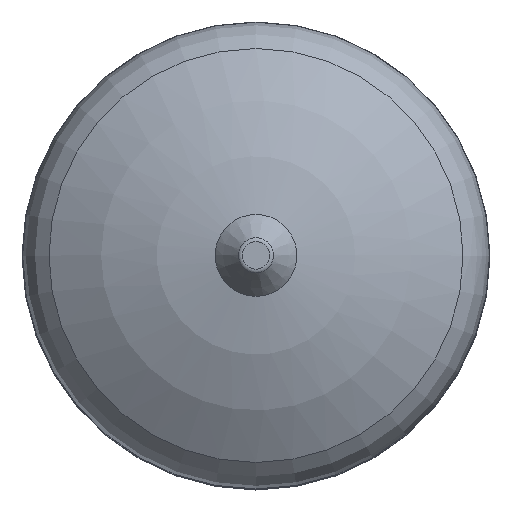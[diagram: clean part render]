
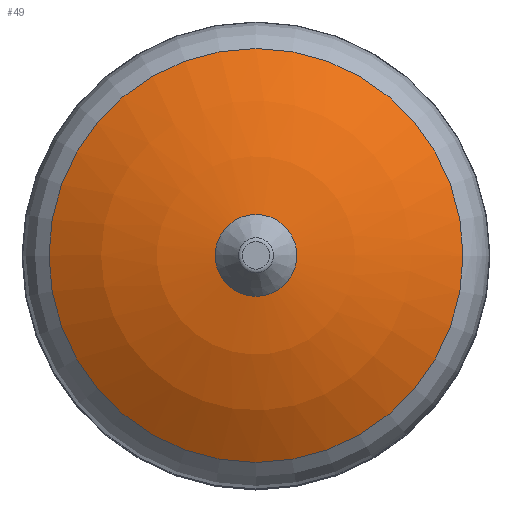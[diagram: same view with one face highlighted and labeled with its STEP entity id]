
A CAD part, top view. The second image highlights one B-rep face of the part: STEP entity #49.
In plain terms, the highlighted spherical face has radius 236 mm.
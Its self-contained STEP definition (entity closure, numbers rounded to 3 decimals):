
#49=ADVANCED_FACE('',(#124,#126),#128,.T.);
#124=FACE_BOUND('',#125,.T.);
#125=EDGE_LOOP('',(#410,#411));
#126=FACE_BOUND('',#127,.T.);
#127=EDGE_LOOP('',(#412,#413));
#128=SPHERICAL_SURFACE('',#129,236.);
#129=AXIS2_PLACEMENT_3D('',#130,#131,#132);
#130=CARTESIAN_POINT('',(0.,0.,224.328));
#131=DIRECTION('',(0.,0.,1.));
#132=DIRECTION('',(1.,0.,0.));
#410=ORIENTED_EDGE('',*,*,#537,.T.);
#411=ORIENTED_EDGE('',*,*,#536,.T.);
#412=ORIENTED_EDGE('',*,*,#538,.F.);
#413=ORIENTED_EDGE('',*,*,#539,.F.);
#536=EDGE_CURVE('',#614,#615,#616,.T.);
#537=EDGE_CURVE('',#615,#614,#617,.T.);
#538=EDGE_CURVE('',#618,#619,#620,.T.);
#539=EDGE_CURVE('',#619,#618,#621,.T.);
#614=VERTEX_POINT('',#780);
#615=VERTEX_POINT('',#781);
#616=CIRCLE('',#782,128.62);
#617=CIRCLE('',#786,128.62);
#618=VERTEX_POINT('',#790);
#619=VERTEX_POINT('',#791);
#620=CIRCLE('',#792,25.43);
#621=CIRCLE('',#796,25.43);
#780=CARTESIAN_POINT('',(-128.62,0.,422.199));
#781=CARTESIAN_POINT('',(128.62,0.,422.199));
#782=AXIS2_PLACEMENT_3D('',#783,#784,#785);
#783=CARTESIAN_POINT('',(0.,0.,422.199));
#784=DIRECTION('',(0.,0.,1.));
#785=DIRECTION('',(-1.,0.,0.));
#786=AXIS2_PLACEMENT_3D('',#787,#788,#789);
#787=CARTESIAN_POINT('',(0.,0.,422.199));
#788=DIRECTION('',(0.,0.,1.));
#789=DIRECTION('',(1.,0.,0.));
#790=CARTESIAN_POINT('',(-25.43,0.,458.954));
#791=CARTESIAN_POINT('',(25.43,0.,458.954));
#792=AXIS2_PLACEMENT_3D('',#793,#794,#795);
#793=CARTESIAN_POINT('',(0.,0.,458.954));
#794=DIRECTION('',(0.,0.,1.));
#795=DIRECTION('',(-1.,0.,0.));
#796=AXIS2_PLACEMENT_3D('',#797,#798,#799);
#797=CARTESIAN_POINT('',(0.,0.,458.954));
#798=DIRECTION('',(0.,0.,1.));
#799=DIRECTION('',(1.,0.,0.));
